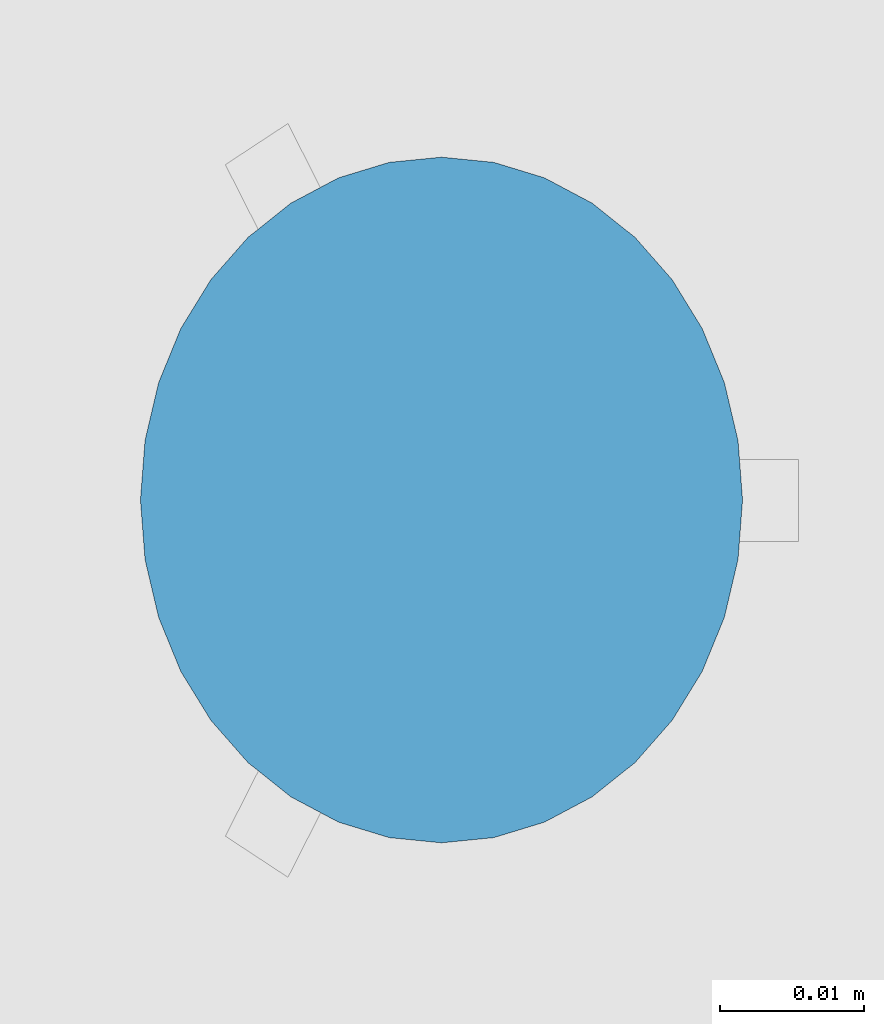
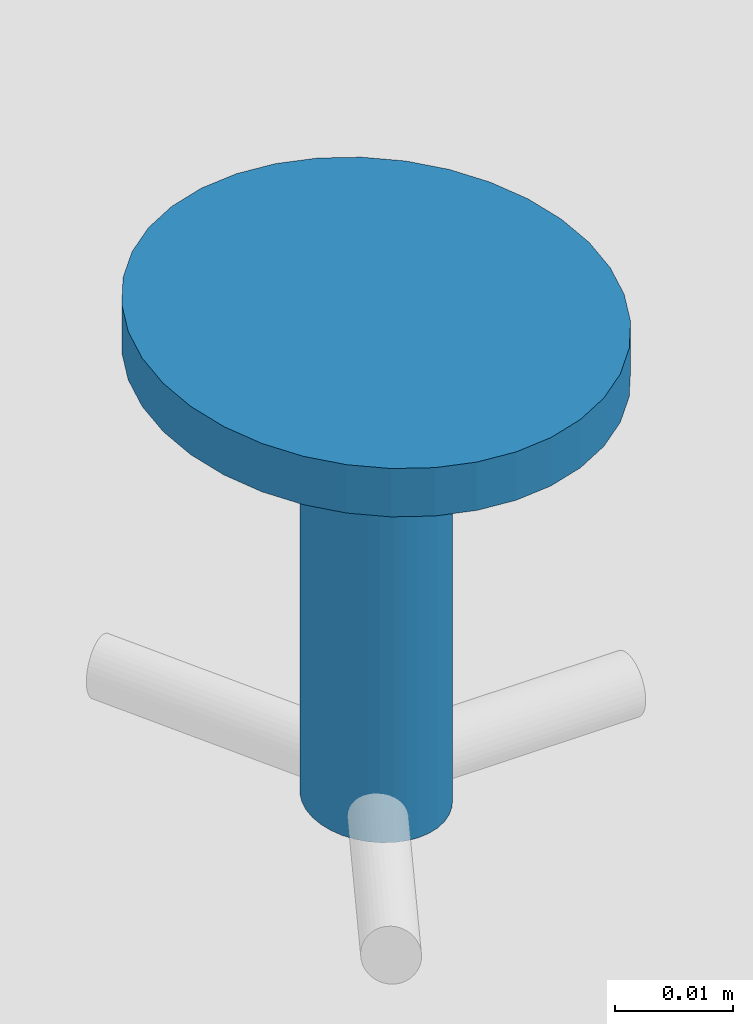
# One storey, part 309 of 788: 1 building element part, 1 element without a shape of its own.
"""IFC2X3 building model written with IfcOpenShell, lengths in millimetres."""

from ifc_helpers import new_model, entity, si_unit, converted_unit, derived_unit, money_unit, direction, frame, origin_with_axes, place, context, subcontext, project, spatial, faceted_brep, source, transform, mapped, material, type_object, element, aggregate, save


model = new_model("IFC2X3")

# Units and contexts
model_context = context("Model", 3, precision=0.01, world=origin_with_axes(), true_north=direction((0.0, 1.0)))
plan_context = context("Plan", 3, precision=0.01, world=origin_with_axes(), true_north=direction((0.0, 1.0)))
body_context = subcontext(model_context, "Body", "Model", "MODEL_VIEW")
ifc_project = project(units=[si_unit("LENGTHUNIT", "METRE", prefix="MILLI"), si_unit("AREAUNIT", "SQUARE_METRE"), si_unit("VOLUMEUNIT", "CUBIC_METRE"), converted_unit("PLANEANGLEUNIT", "DEGREE", entity("IfcPlaneAngleMeasure", 0.0174532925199), si_unit("PLANEANGLEUNIT", "RADIAN"), dimensions=[0, 0, 0, 0, 0, 0, 0]), money_unit("EUR"), converted_unit("TIMEUNIT", "Year", entity("IfcTimeMeasure", 31556926.0), si_unit("TIMEUNIT", "SECOND"), dimensions=[0, 0, 1, 0, 0, 0, 0]), si_unit("MASSUNIT", "GRAM", prefix="KILO"), si_unit("THERMODYNAMICTEMPERATUREUNIT", "DEGREE_CELSIUS"), si_unit("LUMINOUSINTENSITYUNIT", "LUMEN"), si_unit("ENERGYUNIT", "JOULE", prefix="MEGA"), derived_unit("THERMALCONDUCTANCEUNIT", [(si_unit("POWERUNIT", "WATT"), 1), (si_unit("LENGTHUNIT", "METRE"), -1), (si_unit("THERMODYNAMICTEMPERATUREUNIT", "KELVIN"), -1)]), derived_unit("SPECIFICHEATCAPACITYUNIT", [(si_unit("ENERGYUNIT", "JOULE"), 1), (si_unit("MASSUNIT", "GRAM", prefix="KILO"), -1), (si_unit("THERMODYNAMICTEMPERATUREUNIT", "KELVIN"), -1)]), derived_unit("MASSDENSITYUNIT", [(si_unit("MASSUNIT", "GRAM", prefix="KILO"), 1), (si_unit("VOLUMEUNIT", "CUBIC_METRE"), -1)])], contexts=[model_context, plan_context])

# Site, building, storey
site_placement = place(None, origin_with_axes())
site = spatial("IfcSite", under=ifc_project, at=site_placement, Name="Site", CompositionType="ELEMENT")
building_placement = place(site_placement, origin_with_axes())
building = spatial("IfcBuilding", under=site, at=building_placement, Name="Naam gebouw", CompositionType="ELEMENT")
storey_placement = place(building_placement, origin_with_axes())
storey = spatial("IfcBuildingStorey", under=building, at=storey_placement, Name="Begane grond", CompositionType="ELEMENT", Elevation=0.0)

# Proxy, building element part
building_element_proxy_type = type_object("IfcBuildingElementProxyType", Name="plafondhaak", PredefinedType="NOTDEFINED")
proxy_placement = place(storey_placement, frame((37769.5851791, 22037.4842493, 960.0), z_axis=(0.0, 0.0, 1.0), x_axis=(1.0, 0.0, 0.0)))
proxy = element("IfcBuildingElementProxy", 1, at=proxy_placement, inside=storey, type_object=building_element_proxy_type, Name="garderobehaak")
ifc_material = material(Name="_Dichte arcering")
shared_shape = source(origin_with_axes(), body_context, "Body", "Brep", [
    faceted_brep([(-17.5871200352, 3.81461944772, 50.0), (-17.5871200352, 3.81461944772, 45.0), (-14.2952839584, 5.56266277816, 45.0), (-14.2952839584, 5.56266277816, 50.0), (-21.0954971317, 2.74408618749, 50.0), (-21.0954971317, 2.74408618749, 45.0), (-5.13338153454, 17.9967404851, 45.0), (-6.66838990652, 14.2480494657, 45.0), (-8.75169938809, 10.8598540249, 45.0), (-11.3200096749, 7.93510276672, 45.0), (-24.7138149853, 2.38359060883, 45.0), (-28.3321328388, 2.74408618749, 45.0), (-31.8405099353, 3.81461944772, 45.0), (-35.1323460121, 5.56266277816, 45.0), (-38.1076202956, 7.93510276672, 45.0), (-40.6759305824, 10.8598540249, 45.0), (-42.759240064, 14.2480494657, 45.0), (-44.294248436, 17.9967404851, 45.0), (-45.2343152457, 21.9920250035, 45.0), (-45.550877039, 26.1125083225, 45.0), (-45.2343152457, 30.2329916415, 45.0), (-44.294248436, 34.2282761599, 45.0), (-42.759240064, 37.9769671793, 45.0), (-40.6759305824, 41.3651626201, 45.0), (-38.1076202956, 44.2899138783, 45.0), (-35.1323460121, 46.6623538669, 45.0), (-31.8405099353, 48.4103971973, 45.0), (-28.3321328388, 49.4809304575, 45.0), (-24.7138149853, 49.8414260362, 45.0), (-21.0954971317, 49.4809304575, 45.0), (-17.5871200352, 48.4103971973, 45.0), (-14.2952839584, 46.6623538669, 45.0), (-11.3200096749, 44.2899138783, 45.0), (-8.75169938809, 41.3651626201, 45.0), (-6.66838990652, 37.9769671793, 45.0), (-5.13338153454, 34.2282761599, 45.0), (-4.19331472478, 30.2329916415, 45.0), (-3.87675293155, 26.1125083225, 45.0), (-4.19331472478, 21.9920250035, 45.0), (-24.7138149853, 18.9938330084, 45.0), (-23.6283196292, 19.101981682, 45.0), (-22.5758065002, 19.4231416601, 45.0), (-21.5882556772, 19.9475546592, 45.0), (-20.6956733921, 20.6592866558, 45.0), (-19.9251803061, 21.5367120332, 45.0), (-19.3001874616, 22.5531706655, 45.0), (-18.83968495, 23.6777779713, 45.0), (-18.5576649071, 24.8763633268, 45.0), (-18.4626963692, 26.1125083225, 45.0), (-18.5576649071, 27.3486533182, 45.0), (-18.83968495, 28.5472386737, 45.0), (-19.3001874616, 29.6718459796, 45.0), (-19.9251803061, 30.6883046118, 45.0), (-20.6956733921, 31.5657299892, 45.0), (-21.5882556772, 32.2774619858, 45.0), (-22.5758065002, 32.8018749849, 45.0), (-23.6283196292, 33.123034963, 45.0), (-24.7138149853, 33.2311836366, 45.0), (-25.7993103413, 33.123034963, 45.0), (-26.8518234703, 32.8018749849, 45.0), (-27.8393742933, 32.2774619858, 45.0), (-28.7319565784, 31.5657299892, 45.0), (-29.5024496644, 30.6883046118, 45.0), (-30.1274425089, 29.6718459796, 45.0), (-30.5879450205, 28.5472386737, 45.0), (-30.8699650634, 27.3486533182, 45.0), (-30.9649336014, 26.1125083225, 45.0), (-30.8699650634, 24.8763633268, 45.0), (-30.5879450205, 23.6777779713, 45.0), (-30.1274425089, 22.5531706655, 45.0), (-29.5024496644, 21.5367120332, 45.0), (-28.7319565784, 20.6592866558, 45.0), (-27.8393742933, 19.9475546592, 45.0), (-26.8518234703, 19.4231416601, 45.0), (-25.7993103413, 19.101981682, 45.0), (-11.3200096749, 7.93510276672, 50.0), (-8.75169938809, 10.8598540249, 50.0), (-6.66838990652, 14.2480494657, 50.0), (-5.13338153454, 17.9967404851, 50.0), (-4.19331472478, 21.9920250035, 50.0), (-3.87675293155, 26.1125083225, 50.0), (-4.19331472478, 30.2329916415, 50.0), (-5.13338153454, 34.2282761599, 50.0), (-6.66838990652, 37.9769671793, 50.0), (-8.75169938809, 41.3651626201, 50.0), (-11.3200096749, 44.2899138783, 50.0), (-14.2952839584, 46.6623538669, 50.0), (-17.5871200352, 48.4103971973, 50.0), (-21.0954971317, 49.4809304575, 50.0), (-24.7138149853, 49.8414260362, 50.0), (-28.3321328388, 49.4809304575, 50.0), (-31.8405099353, 48.4103971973, 50.0), (-35.1323460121, 46.6623538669, 50.0), (-38.1076202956, 44.2899138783, 50.0), (-40.6759305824, 41.3651626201, 50.0), (-42.759240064, 37.9769671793, 50.0), (-44.294248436, 34.2282761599, 50.0), (-45.2343152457, 30.2329916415, 50.0), (-45.550877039, 26.1125083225, 50.0), (-45.2343152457, 21.9920250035, 50.0), (-44.294248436, 17.9967404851, 50.0), (-42.759240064, 14.2480494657, 50.0), (-40.6759305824, 10.8598540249, 50.0), (-38.1076202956, 7.93510276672, 50.0), (-35.1323460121, 5.56266277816, 50.0), (-31.8405099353, 3.81461944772, 50.0), (-28.3321328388, 2.74408618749, 50.0), (-24.7138149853, 2.38359060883, 50.0), (-24.7138149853, 18.9938330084, 0.0), (-23.6283196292, 19.101981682, 0.0), (-22.5758065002, 19.4231416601, 0.0), (-21.5882556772, 19.9475546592, 0.0), (-20.6956733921, 20.6592866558, 0.0), (-19.9251803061, 21.5367120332, 0.0), (-19.3001874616, 22.5531706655, 0.0), (-18.83968495, 23.6777779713, 0.0), (-18.5576649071, 24.8763633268, 0.0), (-18.4626963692, 26.1125083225, 0.0), (-18.5576649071, 27.3486533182, 0.0), (-18.83968495, 28.5472386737, 0.0), (-19.3001874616, 29.6718459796, 0.0), (-19.9251803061, 30.6883046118, 0.0), (-20.6956733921, 31.5657299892, 0.0), (-21.5882556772, 32.2774619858, 0.0), (-22.5758065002, 32.8018749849, 0.0), (-23.6283196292, 33.123034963, 0.0), (-24.7138149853, 33.2311836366, 0.0), (-25.7993103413, 33.123034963, 0.0), (-26.8518234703, 32.8018749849, 0.0), (-27.8393742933, 32.2774619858, 0.0), (-28.7319565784, 31.5657299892, 0.0), (-29.5024496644, 30.6883046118, 0.0), (-30.1274425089, 29.6718459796, 0.0), (-30.5879450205, 28.5472386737, 0.0), (-30.8699650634, 27.3486533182, 0.0), (-30.9649336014, 26.1125083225, 0.0), (-30.8699650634, 24.8763633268, 0.0), (-30.5879450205, 23.6777779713, 0.0), (-30.1274425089, 22.5531706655, 0.0), (-29.5024496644, 21.5367120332, 0.0), (-28.7319565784, 20.6592866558, 0.0), (-27.8393742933, 19.9475546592, 0.0), (-26.8518234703, 19.4231416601, 0.0), (-25.7993103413, 19.101981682, 0.0)], [[[0, 1, 2, 3]], [[0, 4, 5, 1]], [[6, 7, 8, 9, 2, 1, 5, 10, 11, 12, 13, 14, 15, 16, 17, 18, 19, 20, 21, 22, 23, 24, 25, 26, 27, 28, 29, 30, 31, 32, 33, 34, 35, 36, 37, 38], [39, 40, 41, 42, 43, 44, 45, 46, 47, 48, 49, 50, 51, 52, 53, 54, 55, 56, 57, 58, 59, 60, 61, 62, 63, 64, 65, 66, 67, 68, 69, 70, 71, 72, 73, 74]], [[3, 2, 9, 75]], [[3, 75, 76, 77, 78, 79, 80, 81, 82, 83, 84, 85, 86, 87, 88, 89, 90, 91, 92, 93, 94, 95, 96, 97, 98, 99, 100, 101, 102, 103, 104, 105, 106, 107, 4, 0]], [[107, 10, 5, 4]], [[77, 7, 6, 78]], [[76, 8, 7, 77]], [[9, 8, 76, 75]], [[106, 11, 10, 107]], [[105, 12, 11, 106]], [[104, 13, 12, 105]], [[103, 14, 13, 104]], [[103, 102, 15, 14]], [[102, 101, 16, 15]], [[100, 17, 16, 101]], [[99, 18, 17, 100]], [[98, 19, 18, 99]], [[97, 20, 19, 98]], [[96, 21, 20, 97]], [[95, 22, 21, 96]], [[94, 23, 22, 95]], [[93, 24, 23, 94]], [[92, 25, 24, 93]], [[91, 26, 25, 92]], [[90, 27, 26, 91]], [[89, 28, 27, 90]], [[88, 29, 28, 89]], [[30, 29, 88, 87]], [[31, 30, 87, 86]], [[32, 31, 86, 85]], [[33, 32, 85, 84]], [[83, 34, 33, 84]], [[82, 35, 34, 83]], [[81, 36, 35, 82]], [[80, 37, 36, 81]], [[79, 38, 37, 80]], [[78, 6, 38, 79]], [[40, 39, 108, 109]], [[41, 40, 109, 110]], [[110, 111, 42, 41]], [[43, 42, 111, 112]], [[112, 113, 44, 43]], [[113, 114, 45, 44]], [[114, 115, 46, 45]], [[47, 46, 115, 116]], [[116, 117, 48, 47]], [[117, 118, 49, 48]], [[118, 119, 50, 49]], [[119, 120, 51, 50]], [[120, 121, 52, 51]], [[53, 52, 121, 122]], [[122, 123, 54, 53]], [[123, 124, 55, 54]], [[124, 125, 56, 55]], [[125, 126, 57, 56]], [[58, 57, 126, 127]], [[59, 58, 127, 128]], [[60, 59, 128, 129]], [[129, 130, 61, 60]], [[130, 131, 62, 61]], [[131, 132, 63, 62]], [[64, 63, 132, 133]], [[65, 64, 133, 134]], [[66, 65, 134, 135]], [[135, 136, 67, 66]], [[68, 67, 136, 137]], [[137, 138, 69, 68]], [[70, 69, 138, 139]], [[71, 70, 139, 140]], [[72, 71, 140, 141]], [[73, 72, 141, 142]], [[74, 73, 142, 143]], [[39, 74, 143, 108]], [[109, 108, 143, 142, 141, 140, 139, 138, 137, 136, 135, 134, 133, 132, 131, 130, 129, 128, 127, 126, 125, 124, 123, 122, 121, 120, 119, 118, 117, 116, 115, 114, 113, 112, 111, 110]]]),
])
building_element_part_placement = place(proxy_placement, origin_with_axes())
building_element_part = element("IfcBuildingElementPart", 2, at=building_element_part_placement, material=ifc_material, Name="_Dichte arcering", context=body_context, shape_type="MappedRepresentation", body=[
    mapped(shared_shape, transform((0.0, 0.0, 0.0))),
])
aggregate(proxy, [building_element_part])

save(model, "model.ifc")
